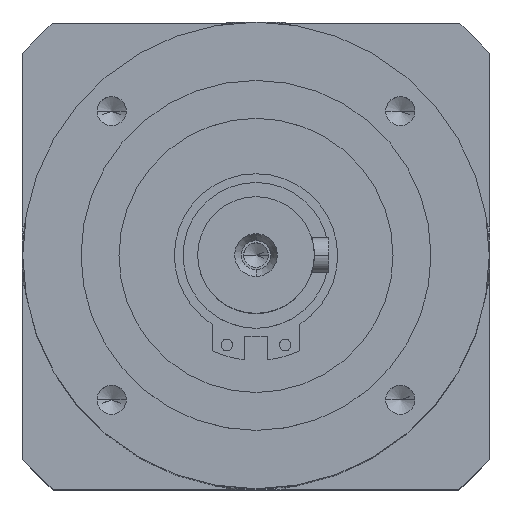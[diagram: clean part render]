
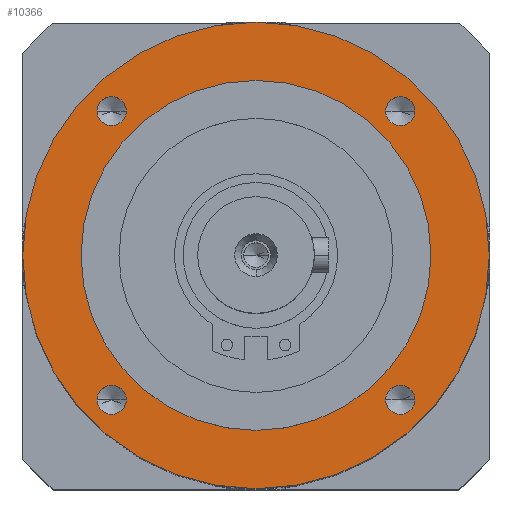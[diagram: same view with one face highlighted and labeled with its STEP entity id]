
A CAD part, top view. The second image highlights one B-rep face of the part: STEP entity #10366.
In plain terms, the highlighted planar face has unit normal (0, 0, 1).
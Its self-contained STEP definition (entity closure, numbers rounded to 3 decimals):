
#30 = VERTEX_POINT ( 'NONE', #9235 ) ;
#159 = VERTEX_POINT ( 'NONE', #15624 ) ;
#297 = DIRECTION ( 'NONE',  ( 1., 0., 0. ) ) ;
#399 = DIRECTION ( 'NONE',  ( 1., 0., 0. ) ) ;
#541 = CARTESIAN_POINT ( 'NONE',  ( -27.249, -24.749, 15. ) ) ;
#929 = FACE_BOUND ( 'NONE', #15046, .T. ) ;
#985 = EDGE_CURVE ( 'NONE', #14443, #159, #13717, .T. ) ;
#1018 = EDGE_CURVE ( 'NONE', #14951, #12451, #17792, .T. ) ;
#1094 = CARTESIAN_POINT ( 'NONE',  ( -40., 0., 15. ) ) ;
#1095 = ORIENTED_EDGE ( 'NONE', *, *, #3450, .F. ) ;
#1114 = CIRCLE ( 'NONE', #14708, 40. ) ;
#1124 = CIRCLE ( 'NONE', #19674, 2.5 ) ;
#1325 = EDGE_CURVE ( 'NONE', #16519, #30, #19984, .T. ) ;
#1630 = ORIENTED_EDGE ( 'NONE', *, *, #1018, .F. ) ;
#1761 = EDGE_CURVE ( 'NONE', #30, #16519, #15874, .T. ) ;
#1776 = CIRCLE ( 'NONE', #10656, 2.5 ) ;
#2033 = CIRCLE ( 'NONE', #7126, 2.5 ) ;
#2301 = DIRECTION ( 'NONE',  ( 0., 0., 1. ) ) ;
#2692 = PLANE ( 'NONE',  #8476 ) ;
#2930 = DIRECTION ( 'NONE',  ( 0., 0., 1. ) ) ;
#2951 = CARTESIAN_POINT ( 'NONE',  ( 24.749, 24.749, 15. ) ) ;
#3092 = CARTESIAN_POINT ( 'NONE',  ( 0., 0., 15. ) ) ;
#3246 = ORIENTED_EDGE ( 'NONE', *, *, #22569, .F. ) ;
#3291 = EDGE_CURVE ( 'NONE', #8676, #14620, #15799, .T. ) ;
#3432 = VERTEX_POINT ( 'NONE', #21106 ) ;
#3450 = EDGE_CURVE ( 'NONE', #12451, #14951, #3750, .T. ) ;
#3750 = CIRCLE ( 'NONE', #4981, 30. ) ;
#4285 = AXIS2_PLACEMENT_3D ( 'NONE', #2951, #15158, #4691 ) ;
#4350 = CARTESIAN_POINT ( 'NONE',  ( 0., 52.5, 15. ) ) ;
#4417 = DIRECTION ( 'NONE',  ( -1., 0., 0. ) ) ;
#4595 = AXIS2_PLACEMENT_3D ( 'NONE', #21185, #10782, #297 ) ;
#4691 = DIRECTION ( 'NONE',  ( 1., 0., 0. ) ) ;
#4850 = DIRECTION ( 'NONE',  ( -1., 0., 0. ) ) ;
#4981 = AXIS2_PLACEMENT_3D ( 'NONE', #19454, #9007, #21180 ) ;
#5413 = ORIENTED_EDGE ( 'NONE', *, *, #22104, .F. ) ;
#5546 = FACE_BOUND ( 'NONE', #7853, .T. ) ;
#5694 = CARTESIAN_POINT ( 'NONE',  ( 24.749, -24.749, 15. ) ) ;
#5806 = CARTESIAN_POINT ( 'NONE',  ( 24.749, -24.749, 15. ) ) ;
#6157 = DIRECTION ( 'NONE',  ( 0., 0., -1. ) ) ;
#6809 = DIRECTION ( 'NONE',  ( 0., 0., 1. ) ) ;
#7126 = AXIS2_PLACEMENT_3D ( 'NONE', #5806, #18010, #7578 ) ;
#7455 = DIRECTION ( 'NONE',  ( 1., 0., 0. ) ) ;
#7578 = DIRECTION ( 'NONE',  ( 1., 0., 0. ) ) ;
#7608 = ORIENTED_EDGE ( 'NONE', *, *, #14365, .F. ) ;
#7853 = EDGE_LOOP ( 'NONE', ( #8150, #19626 ) ) ;
#8150 = ORIENTED_EDGE ( 'NONE', *, *, #1325, .F. ) ;
#8456 = EDGE_CURVE ( 'NONE', #11430, #3432, #2033, .T. ) ;
#8476 = AXIS2_PLACEMENT_3D ( 'NONE', #4350, #14898, #4417 ) ;
#8676 = VERTEX_POINT ( 'NONE', #1094 ) ;
#8685 = AXIS2_PLACEMENT_3D ( 'NONE', #9727, #21884, #11497 ) ;
#9007 = DIRECTION ( 'NONE',  ( 0., 0., 1. ) ) ;
#9235 = CARTESIAN_POINT ( 'NONE',  ( 22.249, 24.749, 15. ) ) ;
#9370 = EDGE_LOOP ( 'NONE', ( #17195, #10116 ) ) ;
#9408 = EDGE_LOOP ( 'NONE', ( #1095, #1630 ) ) ;
#9727 = CARTESIAN_POINT ( 'NONE',  ( -24.749, -24.749, 15. ) ) ;
#9789 = CARTESIAN_POINT ( 'NONE',  ( 27.249, 24.749, 15. ) ) ;
#9800 = EDGE_CURVE ( 'NONE', #159, #14443, #1776, .T. ) ;
#10116 = ORIENTED_EDGE ( 'NONE', *, *, #3291, .F. ) ;
#10330 = CARTESIAN_POINT ( 'NONE',  ( -30., 0., 15. ) ) ;
#10366 = ADVANCED_FACE ( 'NONE', ( #15389, #5546, #14854, #929, #18950, #14291 ), #2692, .F. ) ;
#10656 = AXIS2_PLACEMENT_3D ( 'NONE', #21291, #10878, #399 ) ;
#10698 = VERTEX_POINT ( 'NONE', #14648 ) ;
#10782 = DIRECTION ( 'NONE',  ( 0., 0., 1. ) ) ;
#10878 = DIRECTION ( 'NONE',  ( 0., 0., 1. ) ) ;
#11288 = VERTEX_POINT ( 'NONE', #18425 ) ;
#11430 = VERTEX_POINT ( 'NONE', #15445 ) ;
#11497 = DIRECTION ( 'NONE',  ( 1., 0., 0. ) ) ;
#12451 = VERTEX_POINT ( 'NONE', #20551 ) ;
#12751 = CARTESIAN_POINT ( 'NONE',  ( -24.749, 24.749, 15. ) ) ;
#13139 = CARTESIAN_POINT ( 'NONE',  ( 40., 0., 15. ) ) ;
#13369 = AXIS2_PLACEMENT_3D ( 'NONE', #17244, #6809, #19022 ) ;
#13386 = CARTESIAN_POINT ( 'NONE',  ( 24.749, 24.749, 15. ) ) ;
#13601 = AXIS2_PLACEMENT_3D ( 'NONE', #16609, #6157, #18353 ) ;
#13717 = CIRCLE ( 'NONE', #8685, 2.5 ) ;
#14291 = FACE_OUTER_BOUND ( 'NONE', #9370, .T. ) ;
#14365 = EDGE_CURVE ( 'NONE', #10698, #11288, #22505, .T. ) ;
#14443 = VERTEX_POINT ( 'NONE', #541 ) ;
#14492 = DIRECTION ( 'NONE',  ( 1., 0., 0. ) ) ;
#14531 = EDGE_LOOP ( 'NONE', ( #3246, #21789 ) ) ;
#14620 = VERTEX_POINT ( 'NONE', #13139 ) ;
#14648 = CARTESIAN_POINT ( 'NONE',  ( -27.249, 24.749, 15. ) ) ;
#14708 = AXIS2_PLACEMENT_3D ( 'NONE', #3092, #15307, #4850 ) ;
#14854 = FACE_BOUND ( 'NONE', #14531, .T. ) ;
#14898 = DIRECTION ( 'NONE',  ( 0., 0., -1. ) ) ;
#14951 = VERTEX_POINT ( 'NONE', #10330 ) ;
#15046 = EDGE_LOOP ( 'NONE', ( #21528, #22077 ) ) ;
#15137 = DIRECTION ( 'NONE',  ( 1., 0., 0. ) ) ;
#15158 = DIRECTION ( 'NONE',  ( 0., 0., 1. ) ) ;
#15307 = DIRECTION ( 'NONE',  ( 0., 0., -1. ) ) ;
#15389 = FACE_BOUND ( 'NONE', #19439, .T. ) ;
#15445 = CARTESIAN_POINT ( 'NONE',  ( 22.249, -24.749, 15. ) ) ;
#15624 = CARTESIAN_POINT ( 'NONE',  ( -22.249, -24.749, 15. ) ) ;
#15799 = CIRCLE ( 'NONE', #13601, 40. ) ;
#15874 = CIRCLE ( 'NONE', #22552, 2.5 ) ;
#16156 = CIRCLE ( 'NONE', #18213, 2.5 ) ;
#16519 = VERTEX_POINT ( 'NONE', #9789 ) ;
#16609 = CARTESIAN_POINT ( 'NONE',  ( 0., 0., 15. ) ) ;
#17195 = ORIENTED_EDGE ( 'NONE', *, *, #19647, .F. ) ;
#17244 = CARTESIAN_POINT ( 'NONE',  ( 0., 0., 15. ) ) ;
#17792 = CIRCLE ( 'NONE', #13369, 30. ) ;
#17885 = DIRECTION ( 'NONE',  ( 0., 0., 1. ) ) ;
#18010 = DIRECTION ( 'NONE',  ( 0., 0., 1. ) ) ;
#18213 = AXIS2_PLACEMENT_3D ( 'NONE', #12751, #2301, #14492 ) ;
#18353 = DIRECTION ( 'NONE',  ( -1., 0., 0. ) ) ;
#18425 = CARTESIAN_POINT ( 'NONE',  ( -22.249, 24.749, 15. ) ) ;
#18950 = FACE_BOUND ( 'NONE', #9408, .T. ) ;
#19022 = DIRECTION ( 'NONE',  ( 1., 0., 0. ) ) ;
#19439 = EDGE_LOOP ( 'NONE', ( #5413, #7608 ) ) ;
#19454 = CARTESIAN_POINT ( 'NONE',  ( 0., 0., 15. ) ) ;
#19626 = ORIENTED_EDGE ( 'NONE', *, *, #1761, .F. ) ;
#19647 = EDGE_CURVE ( 'NONE', #14620, #8676, #1114, .T. ) ;
#19674 = AXIS2_PLACEMENT_3D ( 'NONE', #5694, #17885, #7455 ) ;
#19984 = CIRCLE ( 'NONE', #4285, 2.5 ) ;
#20551 = CARTESIAN_POINT ( 'NONE',  ( 30., 0., 15. ) ) ;
#21106 = CARTESIAN_POINT ( 'NONE',  ( 27.249, -24.749, 15. ) ) ;
#21180 = DIRECTION ( 'NONE',  ( 1., 0., 0. ) ) ;
#21185 = CARTESIAN_POINT ( 'NONE',  ( -24.749, 24.749, 15. ) ) ;
#21291 = CARTESIAN_POINT ( 'NONE',  ( -24.749, -24.749, 15. ) ) ;
#21528 = ORIENTED_EDGE ( 'NONE', *, *, #9800, .F. ) ;
#21789 = ORIENTED_EDGE ( 'NONE', *, *, #8456, .F. ) ;
#21884 = DIRECTION ( 'NONE',  ( 0., 0., 1. ) ) ;
#22077 = ORIENTED_EDGE ( 'NONE', *, *, #985, .F. ) ;
#22104 = EDGE_CURVE ( 'NONE', #11288, #10698, #16156, .T. ) ;
#22505 = CIRCLE ( 'NONE', #4595, 2.5 ) ;
#22552 = AXIS2_PLACEMENT_3D ( 'NONE', #13386, #2930, #15137 ) ;
#22569 = EDGE_CURVE ( 'NONE', #3432, #11430, #1124, .T. ) ;
